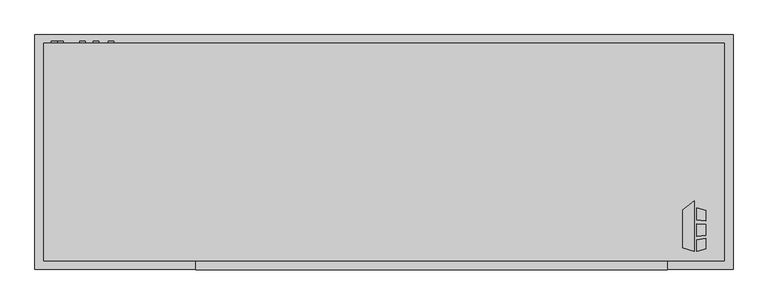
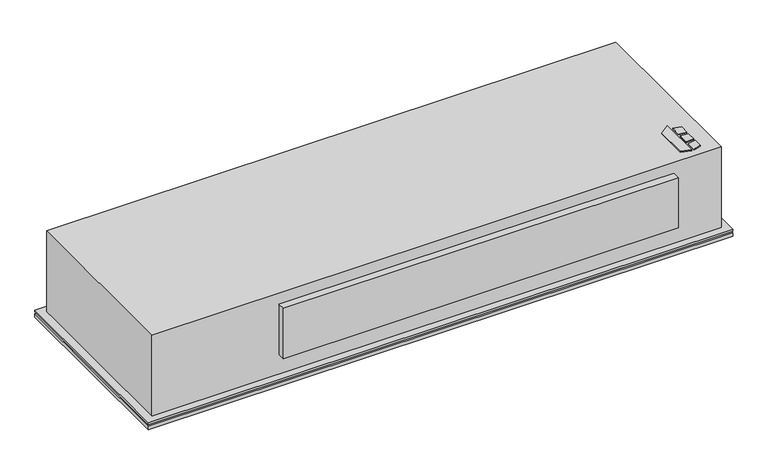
"""IFC4 building model written with IfcOpenShell, lengths in millimetres: proxy geometry, Horizontal_Telescoping_Fan_Coil_Unit_-_CBY_-_IEC_-_4-Pipe_LH_2022 : Size 10 - 277v/60Hz/1Ph - 4/1 Coil."""

from ifc_helpers import new_model, si_unit, point, frame, frame_2d, origin, origin_with_axes, place, context, project, spatial, polyline, circle_curve, trimmed, segment, composite_curve, outline, extrude, source, transform, mapped, element, save


def mechanical_equipment_d1eed018(model_context):
    return source(origin(), model_context, "Body", "SweptSolid", [
        extrude(outline(polyline([(988.7019761, -401.0078476), (1021.2602728, -375.5705184), (1021.2602728, -517.525), (988.7019761, -507.3054201), (988.7019761, -401.0078476)])), origin_with_axes(), (0.0, 0.0, 1.0), 3.175),
        extrude(outline(polyline([(1028.0186058, -428.879852), (1028.0186058, -394.3999379), (1054.1, -402.5865115), (1054.1, -432.0822446), (1028.0186058, -428.879852)])), origin_with_axes(), (0.0, 0.0, 1.0), 3.175),
        extrude(outline(polyline([(1054.1, -510.5365115), (1028.0186058, -517.525), (1028.0186058, -484.3036996), (1054.1, -480.7618564), (1054.1, -510.5365115)])), origin_with_axes(), (0.0, 0.0, 1.0), 3.175),
        extrude(outline(polyline([(1054.1, -441.1638277), (1054.1, -472.413983), (1028.0186058, -475.155248), (1028.0186058, -439.2975378), (1054.1, -441.1638277)])), origin_with_axes(), (0.0, 0.0, 1.0), 3.175),
        extrude(outline(composite_curve([segment(trimmed(circle_curve(frame_2d((-60.325, -612.775)), 7.9375), [point((-60.325, -604.8375))], [point((-60.325, -620.7125))], False, "CARTESIAN"), True, "CONTINUOUS"), segment(trimmed(circle_curve(frame_2d((-60.325, -612.775)), 7.9375), [point((-60.325, -620.7125))], [point((-60.325, -604.8375))], False, "CARTESIAN"), True, "CONTINUOUS")], self_intersect=False)), frame((0.0, 66.675, 0.0), z_axis=(0.0, 1.0, 0.0), x_axis=(0.0, 0.0, 1.0)), (0.0, 0.0, 1.0), 6.35),
        extrude(outline(composite_curve([segment(trimmed(circle_curve(frame_2d((-95.25, -654.05)), 7.9375), [point((-95.25, -646.1125))], [point((-95.25, -661.9875))], False, "CARTESIAN"), True, "CONTINUOUS"), segment(trimmed(circle_curve(frame_2d((-95.25, -654.05)), 7.9375), [point((-95.25, -661.9875))], [point((-95.25, -646.1125))], False, "CARTESIAN"), True, "CONTINUOUS")], self_intersect=False)), frame((0.0, 66.675, 0.0), z_axis=(0.0, 1.0, 0.0), x_axis=(0.0, 0.0, 1.0)), (0.0, 0.0, 1.0), 6.35),
        extrude(outline(composite_curve([segment(trimmed(circle_curve(frame_2d((-44.45, -692.15)), 7.9375), [point((-44.45, -684.2125))], [point((-44.45, -700.0875))], False, "CARTESIAN"), True, "CONTINUOUS"), segment(trimmed(circle_curve(frame_2d((-44.45, -692.15)), 7.9375), [point((-44.45, -700.0875))], [point((-44.45, -684.2125))], False, "CARTESIAN"), True, "CONTINUOUS")], self_intersect=False)), frame((0.0, 66.675, 0.0), z_axis=(0.0, 1.0, 0.0), x_axis=(0.0, 0.0, 1.0)), (0.0, 0.0, 1.0), 6.35),
        extrude(outline(composite_curve([segment(trimmed(circle_curve(frame_2d((-85.725, -771.525)), 7.9375), [point((-85.725, -763.5875))], [point((-85.725, -779.4625))], False, "CARTESIAN"), True, "CONTINUOUS"), segment(trimmed(circle_curve(frame_2d((-85.725, -771.525)), 7.9375), [point((-85.725, -779.4625))], [point((-85.725, -763.5875))], False, "CARTESIAN"), True, "CONTINUOUS")], self_intersect=False)), frame((0.0, 66.675, 0.0), z_axis=(0.0, 1.0, 0.0), x_axis=(0.0, 0.0, 1.0)), (0.0, 0.0, 1.0), 6.35),
        extrude(outline(composite_curve([segment(trimmed(circle_curve(frame_2d((-260.35, -755.65)), 9.525), [point((-260.35, -746.125))], [point((-260.35, -765.175))], False, "CARTESIAN"), True, "CONTINUOUS"), segment(trimmed(circle_curve(frame_2d((-260.35, -755.65)), 9.525), [point((-260.35, -765.175))], [point((-260.35, -746.125))], False, "CARTESIAN"), True, "CONTINUOUS")], self_intersect=False)), frame((0.0, 66.675, 0.0), z_axis=(0.0, 1.0, 0.0), x_axis=(0.0, 0.0, 1.0)), (0.0, 0.0, 1.0), 6.35),
        extrude(outline(polyline([(1130.3, 90.4875), (1130.3, -566.7375), (-825.5, -566.7375), (-825.5, 90.4875), (1130.3, 90.4875)])), frame((0.0, 0.0, -311.15), z_axis=(0.0, 0.0, 1.0), x_axis=(1.0, 0.0, 0.0)), (0.0, 0.0, 1.0), 12.7),
        extrude(outline(polyline([(1130.3, 90.4875), (1130.3, -566.7375), (-825.5, -566.7375), (-825.5, 90.4875), (1130.3, 90.4875)])), frame((0.0, 0.0, -292.1), z_axis=(0.0, 0.0, 1.0), x_axis=(1.0, 0.0, 0.0)), (0.0, 0.0, 1.0), 6.35),
        extrude(outline(polyline([(1104.9, 65.0875), (1104.9, -541.3375), (-800.1, -541.3375), (-800.1, 65.0875), (1104.9, 65.0875)])), frame((0.0, 0.0, -298.45), z_axis=(0.0, 0.0, 1.0), x_axis=(1.0, 0.0, 0.0)), (0.0, 0.0, 1.0), 6.35),
        extrude(outline(polyline([(946.15, -568.325), (-374.65, -568.325), (-374.65, -542.925), (946.15, -542.925), (946.15, -568.325)])), frame((0.0, 0.0, -215.9), z_axis=(0.0, 0.0, 1.0), x_axis=(1.0, 0.0, 0.0)), (0.0, 0.0, 1.0), 177.8),
        extrude(outline(polyline([(-800.1, 66.675), (1104.9, 66.675), (1104.9, -542.925), (-800.1, -542.925), (-800.1, 66.675)])), frame((0.0, 0.0, -285.75), z_axis=(0.0, 0.0, 1.0), x_axis=(1.0, 0.0, 0.0)), (0.0, 0.0, 1.0), 285.75),
        extrude(outline(polyline([(939.8, -9.525), (939.8, -263.525), (-635.0, -263.525), (-635.0, -9.525), (939.8, -9.525)])), frame((0.0, 0.0, -317.5), z_axis=(0.0, 0.0, 1.0), x_axis=(1.0, 0.0, 0.0)), (0.0, 0.0, 1.0), 6.35),
    ])


if __name__ == "__main__":
    model = new_model("IFC4")
    model_context = context("Model", 3, world=origin())
    ifc_project = project(units=[si_unit("LENGTHUNIT", "METRE", prefix="MILLI")], contexts=[model_context])
    site = spatial("IfcSite", under=ifc_project)
    building = spatial("IfcBuilding", under=site)
    placement = place(None, origin())
    mechanical_equipment_shape = mechanical_equipment_d1eed018(model_context)
    element("IfcBuildingElementProxy", 1, Name="Horizontal_Telescoping_Fan_Coil_Unit_-_CBY_-_IEC_-_4-Pipe_LH_2022 : Size 10 - 277v/60Hz/1Ph - 4/1 Coil", ObjectType="Horizontal_Telescoping_Fan_Coil_Unit_-_CBY_-_IEC_-_4-Pipe_LH_2022 : Size 10 - 277v/60Hz/1Ph - 4/1 Coil", at=placement, inside=building, context=model_context, shape_type="MappedRepresentation", body=[
        mapped(mechanical_equipment_shape, transform((0.0, 0.0, 0.0), x_axis=(1.0, 0.0, 0.0), y_axis=(0.0, 1.0, 0.0), z_axis=(0.0, 0.0, 1.0))),
    ])
    save(model, "model.ifc")
